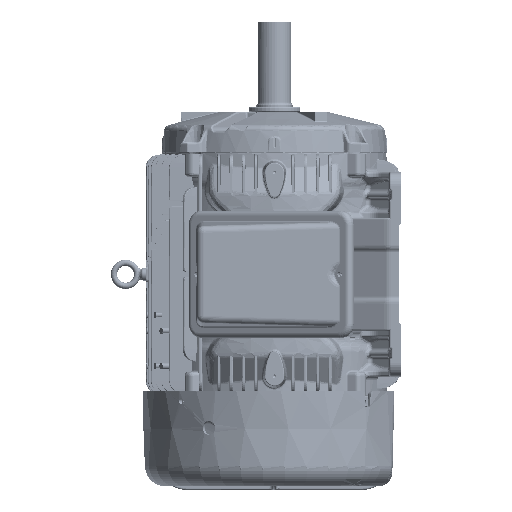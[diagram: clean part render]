
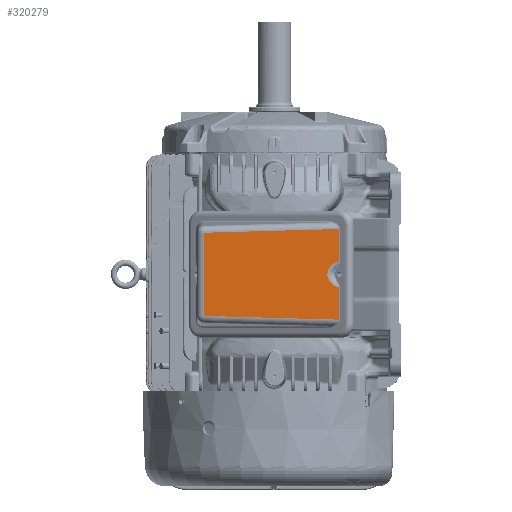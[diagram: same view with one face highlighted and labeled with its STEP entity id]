
A CAD part, left-side view. The second image highlights one B-rep face of the part: STEP entity #320279.
In plain terms, the highlighted planar face has unit normal (-1, 0, 0) as drawn and (0, 0, 1) by its records, which use the part's own axes.
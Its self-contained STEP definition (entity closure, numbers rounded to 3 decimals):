
#316787=CARTESIAN_POINT('',(-3.211,-5.213,
0.));
#316829=DIRECTION('',(0.028,1.,0.));
#316830=VECTOR('',#316829,9.597);
#316831=CARTESIAN_POINT('',(-3.211,-5.213,
0.));
#316832=LINE('',#316831,#316830);
#317791=DIRECTION('',(0.028,-1.,0.));
#317792=VECTOR('',#317791,9.597);
#317793=CARTESIAN_POINT('',(2.947,4.38,0.));
#317794=LINE('',#317793,#317792);
#317816=CARTESIAN_POINT('',(3.211,-5.213,
0.));
#317837=DIRECTION('',(-1.,0.,0.));
#317838=VECTOR('',#317837,2.276);
#317839=CARTESIAN_POINT('',(3.211,-5.213,
0.));
#317840=LINE('',#317839,#317838);
#317850=DIRECTION('',(-1.,0.,0.));
#317851=VECTOR('',#317850,2.276);
#317852=CARTESIAN_POINT('',(-0.934,-5.213,
0.));
#317853=LINE('',#317852,#317851);
#317912=CARTESIAN_POINT('',(0.934,-5.213,
0.));
#317913=CARTESIAN_POINT('',(0.914,-5.13,
0.));
#317914=CARTESIAN_POINT('',(0.86,-4.974,
0.));
#317915=CARTESIAN_POINT('',(0.739,-4.768,
0.));
#317916=CARTESIAN_POINT('',(0.593,-4.609,
0.));
#317917=CARTESIAN_POINT('',(0.433,-4.493,
0.));
#317918=CARTESIAN_POINT('',(0.266,-4.418,
0.));
#317919=CARTESIAN_POINT('',(0.09,-4.379,
0.));
#317920=CARTESIAN_POINT('',(-0.09,-4.379,
0.));
#317921=CARTESIAN_POINT('',(-0.266,-4.418,
0.));
#317922=CARTESIAN_POINT('',(-0.433,-4.493,
0.));
#317923=CARTESIAN_POINT('',(-0.593,-4.609,
0.));
#317924=CARTESIAN_POINT('',(-0.739,-4.768,
0.));
#317925=CARTESIAN_POINT('',(-0.86,-4.974,
0.));
#317926=CARTESIAN_POINT('',(-0.914,-5.13,
0.));
#317927=CARTESIAN_POINT('',(-0.934,-5.213,
0.));
#317929=DIRECTION('',(-1.,0.,0.));
#317930=VECTOR('',#317929,5.893);
#317931=CARTESIAN_POINT('',(2.947,4.38,0.));
#317932=LINE('',#317931,#317930);
#318120=CARTESIAN_POINT('',(2.947,4.38,0.));
#318121=CARTESIAN_POINT('',(-2.947,4.38,0.));
#318122=VERTEX_POINT('',#318120);
#318123=VERTEX_POINT('',#318121);
#318154=VERTEX_POINT('',#316787);
#318156=CARTESIAN_POINT('',(-0.934,-5.213,
0.));
#318157=VERTEX_POINT('',#318156);
#318160=VERTEX_POINT('',#317816);
#318202=CARTESIAN_POINT('',(0.934,-5.213,
0.));
#318203=VERTEX_POINT('',#318202);
#320263=CARTESIAN_POINT('',(-3.69,4.88,0.));
#320264=DIRECTION('',(0.,0.,1.));
#320265=DIRECTION('',(0.,-1.,0.));
#320266=AXIS2_PLACEMENT_3D('',#320263,#320264,#320265);
#320267=PLANE('',#320266);
#320269=ORIENTED_EDGE('',*,*,#320268,.T.);
#320270=ORIENTED_EDGE('',*,*,#318443,.T.);
#320272=ORIENTED_EDGE('',*,*,#320271,.F.);
#320273=ORIENTED_EDGE('',*,*,#320180,.T.);
#320274=ORIENTED_EDGE('',*,*,#320254,.T.);
#320276=ORIENTED_EDGE('',*,*,#320275,.T.);
#320277=EDGE_LOOP('',(#320269,#320270,#320272,#320273,#320274,#320276));
#320278=FACE_OUTER_BOUND('',#320277,.F.);
#320279=ADVANCED_FACE('',(#320278),#320267,.T.);
#317928=B_SPLINE_CURVE_WITH_KNOTS('',3,(#317912,#317913,#317914,#317915,#317916,
#317917,#317918,#317919,#317920,#317921,#317922,#317923,#317924,#317925,#317926,
#317927),.UNSPECIFIED.,.F.,.F.,(4,1,1,1,1,1,1,1,1,1,1,1,1,4),(0.,
0.077,0.154,0.231,0.308,
0.385,0.462,0.538,0.615,
0.692,0.769,0.846,0.923,1.),
.UNSPECIFIED.);
#318443=EDGE_CURVE('',#318154,#318123,#316832,.T.);
#320180=EDGE_CURVE('',#318122,#318160,#317794,.T.);
#320254=EDGE_CURVE('',#318160,#318203,#317840,.T.);
#320268=EDGE_CURVE('',#318157,#318154,#317853,.T.);
#320271=EDGE_CURVE('',#318122,#318123,#317932,.T.);
#320275=EDGE_CURVE('',#318203,#318157,#317928,.T.);
